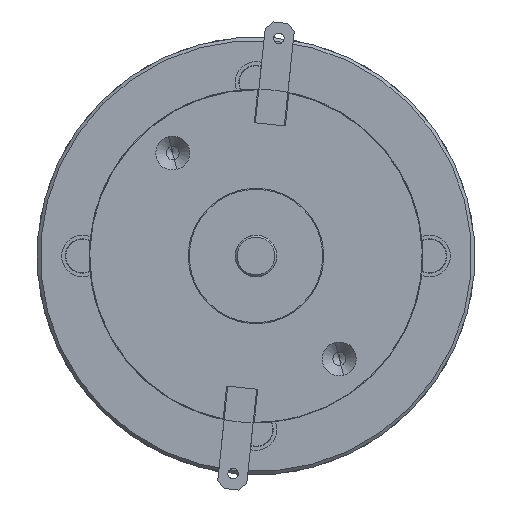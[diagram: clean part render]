
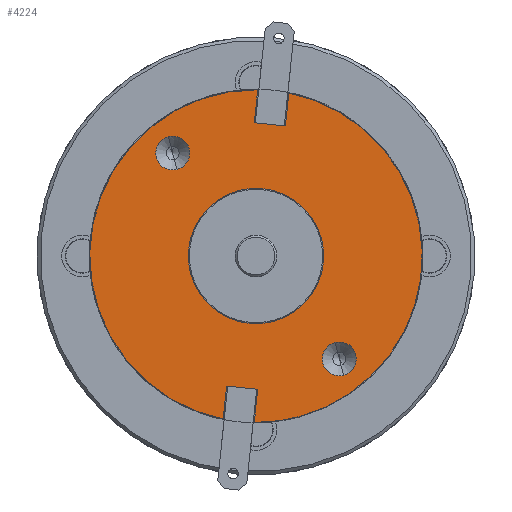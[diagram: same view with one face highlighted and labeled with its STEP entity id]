
A CAD part, left-side view. The second image highlights one B-rep face of the part: STEP entity #4224.
In plain terms, the highlighted planar face has unit normal (-1, 0, 0) as drawn and (1, 0, 0) by its records, which use the part's own axes.
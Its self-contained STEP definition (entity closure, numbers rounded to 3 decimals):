
#134 = CARTESIAN_POINT ( 'NONE',  ( 82.1, 0., -6.5 ) ) ;
#375 = VERTEX_POINT ( 'NONE', #134 ) ;
#483 = CIRCLE ( 'NONE', #20535, 1.625 ) ;
#695 = VERTEX_POINT ( 'NONE', #22834 ) ;
#1080 = EDGE_CURVE ( 'NONE', #695, #16770, #14980, .T. ) ;
#1744 = VERTEX_POINT ( 'NONE', #15739 ) ;
#2127 = VERTEX_POINT ( 'NONE', #23302 ) ;
#2265 = CIRCLE ( 'NONE', #19104, 6.5 ) ;
#2325 = CIRCLE ( 'NONE', #7642, 15.95 ) ;
#2490 = VECTOR ( 'NONE', #18475, 1000. ) ;
#2827 = DIRECTION ( 'NONE',  ( 0., -0.358, -0.934 ) ) ;
#3034 = AXIS2_PLACEMENT_3D ( 'NONE', #10459, #10431, #10402 ) ;
#3127 = AXIS2_PLACEMENT_3D ( 'NONE', #3277, #3253, #3194 ) ;
#3193 = FACE_BOUND ( 'NONE', #8899, .T. ) ;
#3194 = DIRECTION ( 'NONE',  ( 0., 0., 1. ) ) ;
#3253 = DIRECTION ( 'NONE',  ( -1., 0., 0. ) ) ;
#3277 = CARTESIAN_POINT ( 'NONE',  ( 82.1, 0., 0. ) ) ;
#3541 = CARTESIAN_POINT ( 'NONE',  ( 82.1, 3.449, 4.799 ) ) ;
#3738 = VECTOR ( 'NONE', #21243, 1000. ) ;
#3803 = FACE_BOUND ( 'NONE', #17694, .T. ) ;
#4127 = LINE ( 'NONE', #6805, #24809 ) ;
#4169 = CARTESIAN_POINT ( 'NONE',  ( 82.1, -7.109, -14.334 ) ) ;
#4224 = ADVANCED_FACE ( 'NONE', ( #3193, #3803, #19236, #15788 ), #11007, .F. ) ;
#4884 = VECTOR ( 'NONE', #9256, 1000. ) ;
#5031 = DIRECTION ( 'NONE',  ( 0., 0.934, -0.358 ) ) ;
#5070 = DIRECTION ( 'NONE',  ( -1., 0., 0. ) ) ;
#5137 = LINE ( 'NONE', #3541, #25148 ) ;
#5368 = VERTEX_POINT ( 'NONE', #11967 ) ;
#5457 = DIRECTION ( 'NONE',  ( 0., 0., 1. ) ) ;
#5522 = DIRECTION ( 'NONE',  ( -1., 0., 0. ) ) ;
#5539 = CARTESIAN_POINT ( 'NONE',  ( 82.1, -5.166, 11.602 ) ) ;
#6224 = DIRECTION ( 'NONE',  ( 0., -0.358, -0.934 ) ) ;
#6805 = CARTESIAN_POINT ( 'NONE',  ( 82.1, 5.952, 11.319 ) ) ;
#6989 = CARTESIAN_POINT ( 'NONE',  ( 82.1, 4.29, 15.362 ) ) ;
#7080 = EDGE_CURVE ( 'NONE', #12642, #7610, #483, .T. ) ;
#7479 = EDGE_LOOP ( 'NONE', ( #22432, #23074 ) ) ;
#7610 = VERTEX_POINT ( 'NONE', #12841 ) ;
#7642 = AXIS2_PLACEMENT_3D ( 'NONE', #20064, #8076, #22087 ) ;
#7673 = CARTESIAN_POINT ( 'NONE',  ( 82.1, -5.166, 9.977 ) ) ;
#8023 = CARTESIAN_POINT ( 'NONE',  ( 82.1, -7.091, -14.287 ) ) ;
#8060 = DIRECTION ( 'NONE',  ( 0., 0., 1. ) ) ;
#8065 = DIRECTION ( 'NONE',  ( -1., 0., 0. ) ) ;
#8076 = DIRECTION ( 'NONE',  ( -1., 0., 0. ) ) ;
#8106 = CARTESIAN_POINT ( 'NONE',  ( 82.1, 5.166, -11.602 ) ) ;
#8693 = EDGE_CURVE ( 'NONE', #11116, #16770, #5137, .T. ) ;
#8899 = EDGE_LOOP ( 'NONE', ( #10256, #12071 ) ) ;
#8947 = EDGE_CURVE ( 'NONE', #13051, #375, #2265, .T. ) ;
#9245 = EDGE_CURVE ( 'NONE', #1744, #10628, #25409, .T. ) ;
#9256 = DIRECTION ( 'NONE',  ( 0., -0.934, 0.358 ) ) ;
#9438 = VERTEX_POINT ( 'NONE', #10293 ) ;
#9566 = EDGE_CURVE ( 'NONE', #18478, #23623, #10096, .T. ) ;
#9654 = EDGE_CURVE ( 'NONE', #375, #13051, #12898, .T. ) ;
#9763 = LINE ( 'NONE', #21053, #3738 ) ;
#10096 = CIRCLE ( 'NONE', #14372, 1.625 ) ;
#10220 = EDGE_CURVE ( 'NONE', #9438, #695, #9763, .T. ) ;
#10256 = ORIENTED_EDGE ( 'NONE', *, *, #22365, .T. ) ;
#10281 = EDGE_CURVE ( 'NONE', #2127, #10628, #13175, .T. ) ;
#10293 = CARTESIAN_POINT ( 'NONE',  ( 82.1, 5.952, 11.319 ) ) ;
#10402 = DIRECTION ( 'NONE',  ( 0., 0., 1. ) ) ;
#10431 = DIRECTION ( 'NONE',  ( -1., 0., 0. ) ) ;
#10459 = CARTESIAN_POINT ( 'NONE',  ( 82.1, 0., 0. ) ) ;
#10504 = CIRCLE ( 'NONE', #11687, 1.625 ) ;
#10628 = VERTEX_POINT ( 'NONE', #6989 ) ;
#10680 = DIRECTION ( 'NONE',  ( 0., 0., 1. ) ) ;
#10723 = DIRECTION ( 'NONE',  ( -1., 0., 0. ) ) ;
#10757 = CARTESIAN_POINT ( 'NONE',  ( 82.1, 15.95, 0. ) ) ;
#11007 = PLANE ( 'NONE',  #17934 ) ;
#11116 = VERTEX_POINT ( 'NONE', #24509 ) ;
#11136 = CARTESIAN_POINT ( 'NONE',  ( 82.1, 0., 6.5 ) ) ;
#11687 = AXIS2_PLACEMENT_3D ( 'NONE', #8106, #8065, #8060 ) ;
#11967 = CARTESIAN_POINT ( 'NONE',  ( 82.1, -5.952, -11.319 ) ) ;
#12071 = ORIENTED_EDGE ( 'NONE', *, *, #9566, .T. ) ;
#12642 = VERTEX_POINT ( 'NONE', #20049 ) ;
#12679 = AXIS2_PLACEMENT_3D ( 'NONE', #15093, #15062, #15056 ) ;
#12727 = ORIENTED_EDGE ( 'NONE', *, *, #13186, .T. ) ;
#12841 = CARTESIAN_POINT ( 'NONE',  ( 82.1, 5.166, -13.227 ) ) ;
#12898 = CIRCLE ( 'NONE', #3127, 6.5 ) ;
#13032 = CARTESIAN_POINT ( 'NONE',  ( 82.1, -5.166, 13.227 ) ) ;
#13051 = VERTEX_POINT ( 'NONE', #11136 ) ;
#13175 = LINE ( 'NONE', #20967, #2490 ) ;
#13186 = EDGE_CURVE ( 'NONE', #7610, #12642, #10504, .T. ) ;
#14182 = EDGE_CURVE ( 'NONE', #2127, #9438, #4127, .T. ) ;
#14372 = AXIS2_PLACEMENT_3D ( 'NONE', #5539, #5522, #5457 ) ;
#14569 = ORIENTED_EDGE ( 'NONE', *, *, #7080, .T. ) ;
#14917 = ORIENTED_EDGE ( 'NONE', *, *, #14182, .F. ) ;
#14980 = CIRCLE ( 'NONE', #3034, 15.95 ) ;
#15056 = DIRECTION ( 'NONE',  ( 0., 0., 1. ) ) ;
#15062 = DIRECTION ( 'NONE',  ( -1., 0., 0. ) ) ;
#15093 = CARTESIAN_POINT ( 'NONE',  ( 82.1, 0., 0. ) ) ;
#15283 = ORIENTED_EDGE ( 'NONE', *, *, #10281, .T. ) ;
#15739 = CARTESIAN_POINT ( 'NONE',  ( 82.1, 0., 15.95 ) ) ;
#15788 = FACE_BOUND ( 'NONE', #7479, .T. ) ;
#16051 = EDGE_LOOP ( 'NONE', ( #14917, #15283, #16494, #17177, #17813, #19325, #19629, #20298, #21892 ) ) ;
#16446 = AXIS2_PLACEMENT_3D ( 'NONE', #17139, #5070, #19127 ) ;
#16494 = ORIENTED_EDGE ( 'NONE', *, *, #9245, .F. ) ;
#16770 = VERTEX_POINT ( 'NONE', #21309 ) ;
#16936 = VECTOR ( 'NONE', #6224, 1000. ) ;
#17139 = CARTESIAN_POINT ( 'NONE',  ( 82.1, -5.166, 11.602 ) ) ;
#17177 = ORIENTED_EDGE ( 'NONE', *, *, #20127, .F. ) ;
#17587 = VERTEX_POINT ( 'NONE', #8023 ) ;
#17694 = EDGE_LOOP ( 'NONE', ( #12727, #14569 ) ) ;
#17813 = ORIENTED_EDGE ( 'NONE', *, *, #24990, .F. ) ;
#17934 = AXIS2_PLACEMENT_3D ( 'NONE', #10757, #10723, #10680 ) ;
#17955 = CIRCLE ( 'NONE', #16446, 1.625 ) ;
#18475 = DIRECTION ( 'NONE',  ( 0., 0.358, 0.934 ) ) ;
#18478 = VERTEX_POINT ( 'NONE', #13032 ) ;
#19104 = AXIS2_PLACEMENT_3D ( 'NONE', #21516, #21406, #21345 ) ;
#19127 = DIRECTION ( 'NONE',  ( 0., 0., 1. ) ) ;
#19236 = FACE_OUTER_BOUND ( 'NONE', #16051, .T. ) ;
#19325 = ORIENTED_EDGE ( 'NONE', *, *, #19588, .F. ) ;
#19588 = EDGE_CURVE ( 'NONE', #11116, #5368, #20896, .T. ) ;
#19629 = ORIENTED_EDGE ( 'NONE', *, *, #8693, .T. ) ;
#20049 = CARTESIAN_POINT ( 'NONE',  ( 82.1, 5.166, -9.977 ) ) ;
#20064 = CARTESIAN_POINT ( 'NONE',  ( 82.1, 0., 0. ) ) ;
#20127 = EDGE_CURVE ( 'NONE', #17587, #1744, #2325, .T. ) ;
#20298 = ORIENTED_EDGE ( 'NONE', *, *, #1080, .F. ) ;
#20535 = AXIS2_PLACEMENT_3D ( 'NONE', #21204, #21173, #21114 ) ;
#20896 = LINE ( 'NONE', #21264, #4884 ) ;
#20967 = CARTESIAN_POINT ( 'NONE',  ( 82.1, 0.648, 5.874 ) ) ;
#21053 = CARTESIAN_POINT ( 'NONE',  ( 82.1, 7.109, 14.334 ) ) ;
#21114 = DIRECTION ( 'NONE',  ( 0., 0., 1. ) ) ;
#21173 = DIRECTION ( 'NONE',  ( -1., 0., 0. ) ) ;
#21204 = CARTESIAN_POINT ( 'NONE',  ( 82.1, 5.166, -11.602 ) ) ;
#21243 = DIRECTION ( 'NONE',  ( 0., 0.358, 0.934 ) ) ;
#21264 = CARTESIAN_POINT ( 'NONE',  ( 82.1, -3.151, -12.394 ) ) ;
#21309 = CARTESIAN_POINT ( 'NONE',  ( 82.1, -4.29, -15.362 ) ) ;
#21345 = DIRECTION ( 'NONE',  ( 0., 0., 1. ) ) ;
#21406 = DIRECTION ( 'NONE',  ( -1., 0., 0. ) ) ;
#21516 = CARTESIAN_POINT ( 'NONE',  ( 82.1, 0., 0. ) ) ;
#21892 = ORIENTED_EDGE ( 'NONE', *, *, #10220, .F. ) ;
#22087 = DIRECTION ( 'NONE',  ( 0., 0., 1. ) ) ;
#22221 = LINE ( 'NONE', #4169, #16936 ) ;
#22365 = EDGE_CURVE ( 'NONE', #23623, #18478, #17955, .T. ) ;
#22432 = ORIENTED_EDGE ( 'NONE', *, *, #8947, .T. ) ;
#22834 = CARTESIAN_POINT ( 'NONE',  ( 82.1, 7.091, 14.287 ) ) ;
#23074 = ORIENTED_EDGE ( 'NONE', *, *, #9654, .T. ) ;
#23302 = CARTESIAN_POINT ( 'NONE',  ( 82.1, 3.151, 12.394 ) ) ;
#23623 = VERTEX_POINT ( 'NONE', #7673 ) ;
#24509 = CARTESIAN_POINT ( 'NONE',  ( 82.1, -3.151, -12.394 ) ) ;
#24809 = VECTOR ( 'NONE', #5031, 1000. ) ;
#24990 = EDGE_CURVE ( 'NONE', #5368, #17587, #22221, .T. ) ;
#25148 = VECTOR ( 'NONE', #2827, 1000. ) ;
#25409 = CIRCLE ( 'NONE', #12679, 15.95 ) ;
